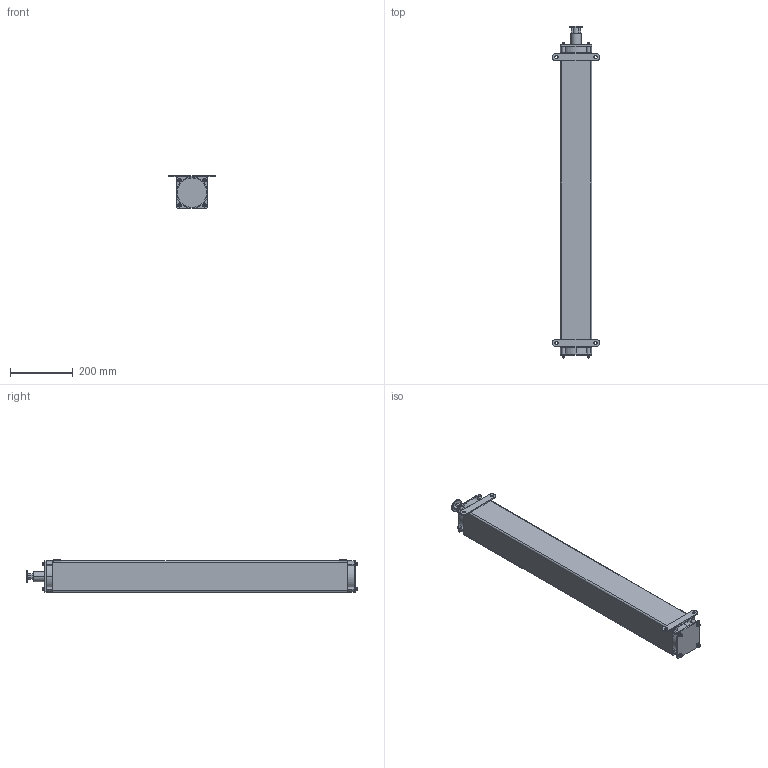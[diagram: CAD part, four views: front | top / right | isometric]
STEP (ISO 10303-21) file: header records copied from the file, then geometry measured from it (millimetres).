
FILE_DESCRIPTION((''),'2;1');
FILE_NAME('EFB-EX_ASM','2021-08-19T10:30:51',('18720616900'),(''),'CREO PARAMETRIC BY PTC INC, 2019010','CREO PARAMETRIC BY PTC INC, 2019010','');
FILE_SCHEMA(('CONFIG_CONTROL_DESIGN'));
Length unit declared in the file: millimetre
Products named in the file (6): EFB-EX-115; M6-50-0001; M6-1--00; M6-1-00; 0001_ASM; EFB-EX_ASM
Assembly tree (12 placements, depth 3):
  EFB-EX_ASM
    EFB-EX-115
    0001_ASM  x8
      M6-50-0001
      M6-1--00
      M6-1-00
Bounding box: 150 x 1059.5 x 104 mm (x, y, z)
Volume: 1237956.9 mm3; surface area: 795046.9 mm2
Topology: 25 solids, 33 shells, 1249 faces, 3236 edges, 2074 vertices
Faces by surface type: cone 488, plane 265, bspline 264, cylinder 182, torus 50
Entity records: 19619 total; most frequent: CARTESIAN_POINT 10839, ORIENTED_EDGE 1806, DIRECTION 1744, EDGE_CURVE 919, AXIS2_PLACEMENT_3D 655, VERTEX_POINT 597, VECTOR 434, LINE 434
